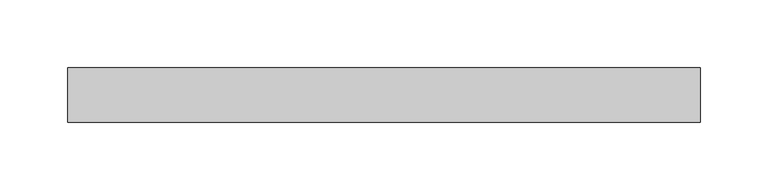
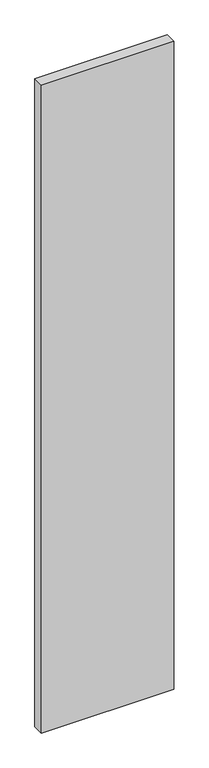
"""IFC4 building model written with IfcOpenShell, lengths in millimetres: plate geometry, Vitré."""

import ifcopenshell
import ifcopenshell.guid

model = None  # the IFC model being written
_history = None  # IfcOwnerHistory: only IFC2X3 demands one
_inside = {}  # id of a spatial element -> (the spatial element, [elements in it])
_under = {}  # id of a project, library or spatial element -> (it, [spatial elements below it])
_declared = {}  # id of a project -> (the project, [libraries it declares])
_typed = {}  # id of a type object -> (the type object, [elements of that type])
_made_of = {}  # id of a material, layer set ... -> (it, [elements and type objects made of it])


def new_model(schema):
    """Start an empty IFC model of exactly this schema.

    Asked for "IFC4X3", IfcOpenShell would pick the latest addendum, in which some entities
    have other attributes; the version numbers below select the first issue.
    IFC2X3 requires an IfcOwnerHistory on every rooted entity: one is made here for all.
    """
    global model, _history
    if schema == "IFC4X3":
        model = ifcopenshell.file(schema_version=(4, 3, 0, 0))
    else:
        model = ifcopenshell.file(schema=schema)
    _inside.clear()
    _under.clear()
    _declared.clear()
    _typed.clear()
    _made_of.clear()
    _history = None
    if model.schema == "IFC2X3":
        org = make("IfcOrganization", Name="unknown")
        user = make(
            "IfcPersonAndOrganization",
            ThePerson=make("IfcPerson", FamilyName="unknown"),
            TheOrganization=org,
        )
        app = make(
            "IfcApplication",
            ApplicationDeveloper=org,
            Version="unknown",
            ApplicationFullName="unknown",
            ApplicationIdentifier="unknown",
        )
        _history = make(
            "IfcOwnerHistory",
            OwningUser=user,
            OwningApplication=app,
            ChangeAction="ADDED",
            CreationDate=0,
        )
    return model


def make(cls, **values):
    """One entity of the class cls with the attributes given. An attribute that is None is left unset."""
    return model.create_entity(
        cls, **{name: value for name, value in values.items() if value is not None}
    )


def rooted(cls, **values):
    """An entity with a GlobalId (a new one), such as an element, a storey or a relation."""
    return make(cls, GlobalId=ifcopenshell.guid.new(), OwnerHistory=_history, **values)


def si_unit(unit_type, name, prefix=None):
    """IfcSIUnit, for example si_unit("LENGTHUNIT", "METRE", prefix="MILLI")."""
    return make("IfcSIUnit", UnitType=unit_type, Prefix=prefix, Name=name)


def assignment(units):
    """IfcUnitAssignment: the units of a project."""
    return None if units is None else make("IfcUnitAssignment", Units=units)


def point(xyz):
    """IfcCartesianPoint."""
    return None if xyz is None else make("IfcCartesianPoint", Coordinates=xyz)


def direction(xyz):
    """IfcDirection."""
    return None if xyz is None else make("IfcDirection", DirectionRatios=xyz)


def frame(location, z_axis=None, x_axis=None):
    """IfcAxis2Placement3D, a coordinate frame: its origin and axes. An axis left out is left unset."""
    return make(
        "IfcAxis2Placement3D",
        Location=point(location),
        Axis=direction(z_axis),
        RefDirection=direction(x_axis),
    )


def origin():
    """The frame at (0, 0, 0) with its axes left unset."""
    return frame((0.0, 0.0, 0.0))


def origin_with_axes():
    """The frame at (0, 0, 0) with the z axis (0, 0, 1) and the x axis (1, 0, 0) written out."""
    return frame((0.0, 0.0, 0.0), z_axis=(0.0, 0.0, 1.0), x_axis=(1.0, 0.0, 0.0))


def place(relative_to, where):
    """IfcLocalPlacement: puts the frame where relative to a parent placement (None: the world)."""
    return make(
        "IfcLocalPlacement", PlacementRelTo=relative_to, RelativePlacement=where
    )


def context(
    kind, dimensions, precision=None, world=None, true_north=None, identifier=None
):
    """IfcGeometricRepresentationContext, for example the 3D "Model" context."""
    return make(
        "IfcGeometricRepresentationContext",
        ContextIdentifier=identifier,
        ContextType=kind,
        CoordinateSpaceDimension=dimensions,
        Precision=precision,
        WorldCoordinateSystem=world,
        TrueNorth=true_north,
    )


def project(units=None, contexts=None):
    """IfcProject with its units and contexts."""
    return rooted(
        "IfcProject",
        Name="project",
        RepresentationContexts=contexts,
        UnitsInContext=assignment(units),
    )


def spatial(cls, under=None, at=None, **own):
    """A site, building, storey or space (cls), placed at a placement, below another one or the project."""
    s = rooted(cls, ObjectPlacement=at, **own)
    if under is not None:
        _under.setdefault(under.id(), (under, []))[1].append(s)
    return s


def polyline(points):
    """IfcPolyline through the points."""
    return make("IfcPolyline", Points=[point(p) for p in points])


def outline(outer, holes=None, kind="AREA"):
    """IfcArbitraryClosedProfileDef: a profile drawn as a closed curve; with holes, ...WithVoids."""
    if holes is None:
        return make("IfcArbitraryClosedProfileDef", ProfileType=kind, OuterCurve=outer)
    return make(
        "IfcArbitraryProfileDefWithVoids",
        ProfileType=kind,
        OuterCurve=outer,
        InnerCurves=holes,
    )


def extrude(swept, where, along, depth):
    """IfcExtrudedAreaSolid: the profile swept, set in the frame where, extruded along a direction by depth."""
    return make(
        "IfcExtrudedAreaSolid",
        SweptArea=swept,
        Position=where,
        ExtrudedDirection=direction(along),
        Depth=depth,
    )


def shape(context_of_items, identifier, shape_type, items):
    """IfcShapeRepresentation: the items that make up one representation, for example the "Body"."""
    return make(
        "IfcShapeRepresentation",
        ContextOfItems=context_of_items,
        RepresentationIdentifier=identifier,
        RepresentationType=shape_type,
        Items=items,
    )


def source(mapping_origin, context_of_items, identifier, shape_type, items):
    """IfcRepresentationMap: a shape defined once, which mapped items show again and again."""
    return make(
        "IfcRepresentationMap",
        MappingOrigin=mapping_origin,
        MappedRepresentation=shape(context_of_items, identifier, shape_type, items),
    )


def transform(
    local_origin,
    x_axis=None,
    y_axis=None,
    z_axis=None,
    scale=None,
    scale2=None,
    scale3=None,
    uniform=True,
):
    """IfcCartesianTransformationOperator3D, or its non-uniform kind. x_axis, y_axis, z_axis: its Axis1, 2, 3."""
    if uniform:
        return make(
            "IfcCartesianTransformationOperator3D",
            Axis1=direction(x_axis),
            Axis2=direction(y_axis),
            LocalOrigin=point(local_origin),
            Scale=scale,
            Axis3=direction(z_axis),
        )
    return make(
        "IfcCartesianTransformationOperator3DnonUniform",
        Axis1=direction(x_axis),
        Axis2=direction(y_axis),
        LocalOrigin=point(local_origin),
        Scale=scale,
        Axis3=direction(z_axis),
        Scale2=scale2,
        Scale3=scale3,
    )


def mapped(mapping_source, mapping_target):
    """IfcMappedItem: shows the shape of a source again, moved by a transform."""
    return make(
        "IfcMappedItem", MappingSource=mapping_source, MappingTarget=mapping_target
    )


def made_of(thing, what):
    """Note that an element or type object is made of a material, layer set ...; save() writes the relation."""
    if what is not None:
        _made_of.setdefault(what.id(), (what, []))[1].append(thing)
    return thing


def element(
    cls,
    number,
    at=None,
    inside=None,
    cuts=None,
    type_object=None,
    material=None,
    context=None,
    identifier="Body",
    shape_type=None,
    held_by="IfcProductDefinitionShape",
    body=None,
    shapes=None,
    **own,
):
    """One element of the class cls, such as IfcWall. Its Tag is "e" and its number.

    at: its placement. inside: the storey or other place that contains it. cuts: it is an
    opening in that element (IfcRelVoidsElement). A single representation is given by context,
    identifier, shape_type and body (its items); several are given by shapes. held_by: the class
    of the entity that holds the representations. save() writes the other relations.
    """
    e = rooted(cls, Tag="e%d" % number, ObjectPlacement=at, **own)
    if body is not None:
        shapes = [shape(context, identifier, shape_type, body)]
    if shapes is not None:
        e.Representation = make(held_by, Representations=shapes)
    if inside is not None:
        _inside.setdefault(inside.id(), (inside, []))[1].append(e)
    if cuts is not None:
        rooted(
            "IfcRelVoidsElement", RelatingBuildingElement=cuts, RelatedOpeningElement=e
        )
    if type_object is not None:
        _typed.setdefault(type_object.id(), (type_object, []))[1].append(e)
    return made_of(e, material)


def aggregate(whole, parts):
    """IfcRelAggregates: a whole, such as a stair, and the parts it consists of."""
    return rooted("IfcRelAggregates", RelatingObject=whole, RelatedObjects=parts)


def save(model, path):
    """Write the relations noted so far, then the file.

    IfcRelAggregates (storeys below a building ...), IfcRelContainedInSpatialStructure (elements
    in a storey), IfcRelDefinesByType, IfcRelAssociatesMaterial and IfcRelDeclares: one each for
    every whole, place, type object, material and project.
    """
    for whole, parts in _under.values():
        aggregate(whole, parts)
    for where, things in _inside.values():
        rooted(
            "IfcRelContainedInSpatialStructure",
            RelatedElements=things,
            RelatingStructure=where,
        )
    for kind, things in _typed.values():
        rooted("IfcRelDefinesByType", RelatedObjects=things, RelatingType=kind)
    for what, things in _made_of.values():
        rooted("IfcRelAssociatesMaterial", RelatedObjects=things, RelatingMaterial=what)
    for by, libraries in _declared.values():
        rooted("IfcRelDeclares", RelatingContext=by, RelatedDefinitions=libraries)
    model.write(path)


def plate_bf65dd94(model_context):
    return source(origin(), model_context, "Body", "SweptSolid", [
        extrude(outline(polyline([(-232.5625002, -20.0), (-232.5625002, 20.0), (232.5625002, 20.0), (232.5625002, -20.0), (-232.5625002, -20.0)])), origin_with_axes(), (0.0, 0.0, 1.0), 2407.625),
    ])


if __name__ == "__main__":
    model = new_model("IFC4")
    model_context = context("Model", 3, world=origin())
    ifc_project = project(units=[si_unit("LENGTHUNIT", "METRE", prefix="MILLI")], contexts=[model_context])
    site = spatial("IfcSite", under=ifc_project)
    building = spatial("IfcBuilding", under=site)
    placement = place(None, origin())
    plate_shape = plate_bf65dd94(model_context)
    element("IfcPlate", 1, ObjectType="Vitré", at=placement, inside=building, context=model_context, shape_type="MappedRepresentation", body=[
        mapped(plate_shape, transform((0.0, 0.0, 0.0), x_axis=(1.0, 0.0, 0.0), y_axis=(0.0, 1.0, 0.0), z_axis=(0.0, 0.0, 1.0))),
    ])
    save(model, "model.ifc")
